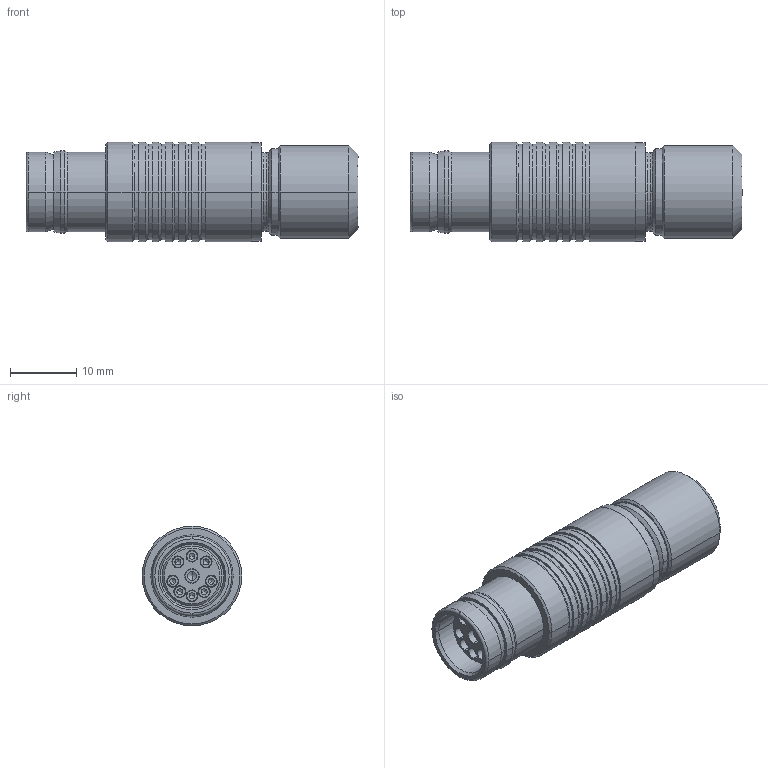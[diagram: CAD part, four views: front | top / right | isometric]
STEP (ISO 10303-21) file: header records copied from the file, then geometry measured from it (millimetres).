
FILE_DESCRIPTION((''),'2;1');
FILE_NAME('N:\Transfer\Berger Martin\Leybold\C13\210303.stp','2005-02-09T10:58:14',('PESO'),(''),'Autodesk Inventor 9','Autodesk Inventor 9','');
FILE_SCHEMA(('AUTOMOTIVE_DESIGN { 1 0 10303 214 1 1 1 1 }'));
Length unit declared in the file: millimetre
Products named in the file (1): 210303
Bounding box: 50 x 15 x 15 mm (x, y, z)
Volume: 5415.5 mm3; surface area: 5886.6 mm2
Topology: 1 solids, 1 shells, 342 faces, 766 edges, 452 vertices
Faces by surface type: cylinder 142, bspline 76, plane 64, cone 50, torus 10
Entity records: 10449 total; most frequent: CARTESIAN_POINT 2925, DIRECTION 1712, ORIENTED_EDGE 1460, EDGE_CURVE 730, AXIS2_PLACEMENT_3D 715, VERTEX_POINT 452, CIRCLE 421, EDGE_LOOP 404
